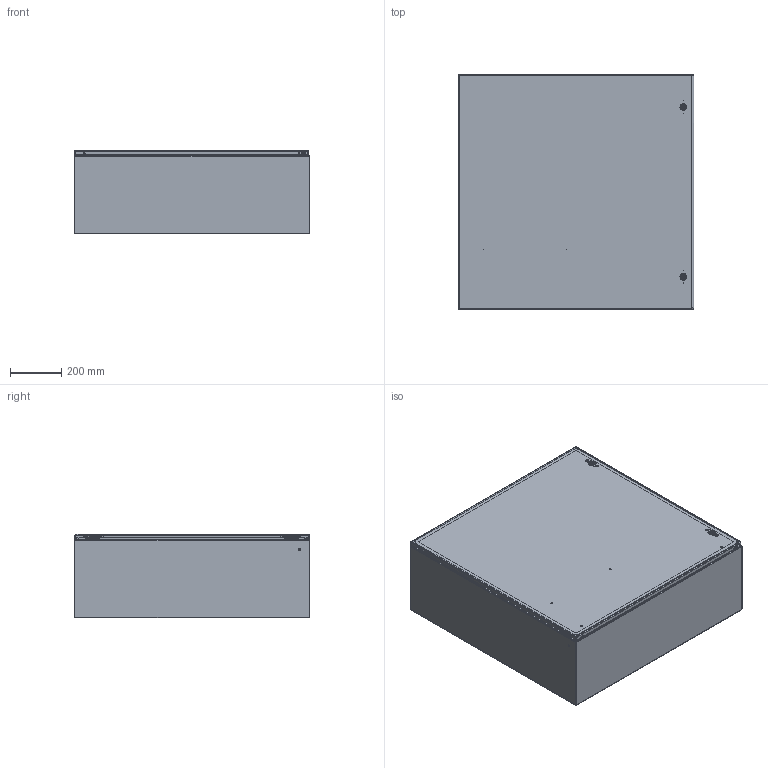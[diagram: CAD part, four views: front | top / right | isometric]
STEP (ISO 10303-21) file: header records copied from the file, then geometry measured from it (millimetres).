
FILE_DESCRIPTION (( 'STEP AP203' ), '1' );
FILE_NAME ('csd363612lg.STEP', '2012-06-11T19:51:16', ( 'User' ), ( 'Pentair Inc' ), 'SwSTEP 2.0', 'SolidWorks 2010', '' );
FILE_SCHEMA (( 'CONFIG_CONTROL_DESIGN' ));
Products named in the file (32): 89076193; csd363612lg; 89046230; 87755966_default; 64406008_default; 23271001_After Weld; 87937947_assy; 87937987_weldment; 87936146; 99401225; 87931362_87931362; 51123001_Post weld; 64101001; 64201001; 87541994_Installed Height; 87541995; 64202001; 64210001; 64203001; 87927840_87927840; 87932903; 64138001; 87938011; 87555298; 87562939_87562939; 87543027; 89076399; 89056623; 89046604_B18.6.7M - M5 x 0.8 x 16 Type I Cross Recessed FHMS --16N; 87929507; 87929767; 87929769_Installed on Pin
Assembly tree (56 placements, depth 4):
  csd363612lg
    87543027  x2
    89046604_B18.6.7M - M5 x 0.8 x 16 Type I Cross Recessed FHMS --16N  x4
    87929507  x2
      87929767
      87929769_Installed on Pin
    89046230
      23271001_After Weld  x8
      64406008_default  x2
      99401225
      87755966_default
    89076399  x2
      89056623
      89076193
    87937947_assy
      87932903  x4
      87938011
      87937987_weldment
        87931362_87931362  x6
        99401225
        87936146
        51123001_Post weld
      64138001  x2
      64101001  x2
        87541994_Installed Height
        64210001
        87541995
        64203001
        87927840_87927840
        64202001
        64201001
      87555298
      87562939_87562939
Bounding box: 914.4 x 914.7 x 325.5 mm (x, y, z)
Volume: 5650223.7 mm3; surface area: 6063873.1 mm2
Topology: 60 solids, 60 shells, 2573 faces, 6261 edges, 3774 vertices
Faces by surface type: plane 954, cylinder 770, bspline 504, cone 176, torus 160, sphere 9
Entity records: 48638 total; most frequent: CARTESIAN_POINT 16153, ORIENTED_EDGE 6150, DIRECTION 5563, EDGE_CURVE 3075, AXIS2_PLACEMENT_3D 2020, VERTEX_POINT 1898, LINE 1523, VECTOR 1523
